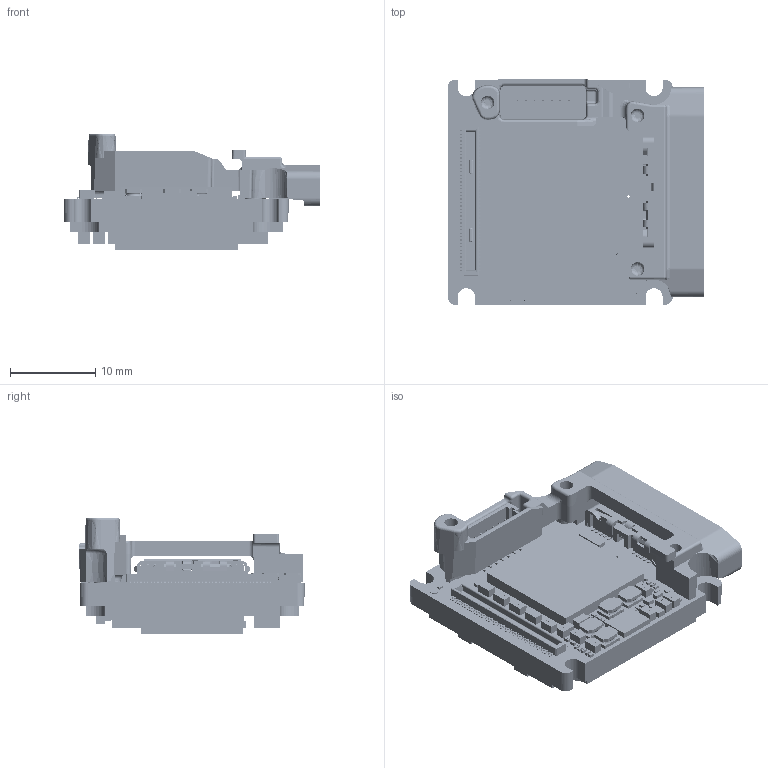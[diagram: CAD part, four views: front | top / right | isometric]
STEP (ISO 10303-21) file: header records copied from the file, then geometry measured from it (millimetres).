
FILE_DESCRIPTION (( 'STEP AP214' ), '1' );
FILE_NAME ('Alvium-USB90-Bare-Board-IMX548.STEP', '2022-11-17T10:27:17', ( '' ), ( '' ), 'SwSTEP 2.0', 'SolidWorks 2021', '' );
FILE_SCHEMA (( 'AUTOMOTIVE_DESIGN' ));
Length unit declared in the file: millimetre
Products named in the file (1): Alvium-USB90-Bare-Board-IMX548
Bounding box: 30.1 x 26.45 x 13.67 mm (x, y, z)
Volume: 3948.6 mm3; surface area: 5792.8 mm2
Topology: 176 solids, 176 shells, 12048 faces, 30520 edges, 19817 vertices
Faces by surface type: plane 6291, bspline 4620, cylinder 1043, cone 38, torus 32, sphere 24
Entity records: 756940 total; most frequent: CARTESIAN_POINT 363926, ORIENTED_EDGE 60994, DIRECTION 37951, EDGE_CURVE 30497, VERTEX_POINT 19817, VECTOR 18917, LINE 18917, EDGE_LOOP 13108
